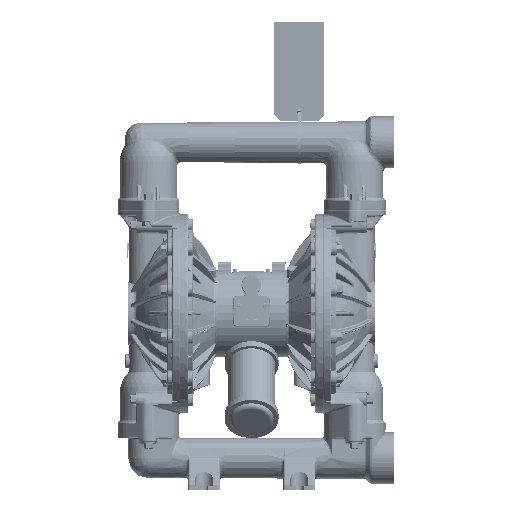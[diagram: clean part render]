
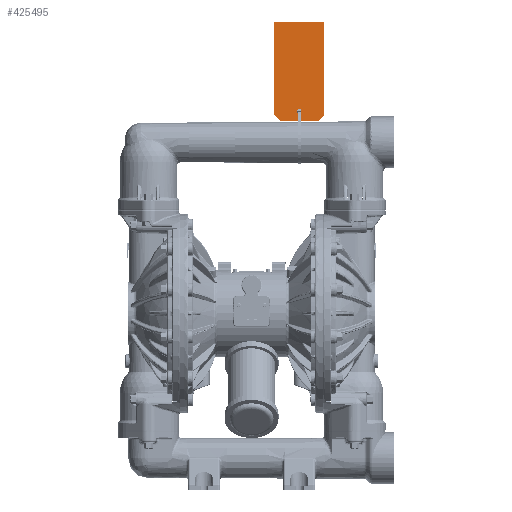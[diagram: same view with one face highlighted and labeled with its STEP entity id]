
A CAD part, top view. The second image highlights one B-rep face of the part: STEP entity #425495.
In plain terms, the highlighted planar face has unit normal (0, 0, 1).
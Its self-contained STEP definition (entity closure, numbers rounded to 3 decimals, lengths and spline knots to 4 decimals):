
#425408=DIRECTION('',(1.,0.,0.));
#425409=VECTOR('',#425408,3.12);
#425410=CARTESIAN_POINT('',(1.44,18.37,-0.155));
#425411=LINE('',#425410,#425409);
#425412=DIRECTION('',(0.,-1.,0.));
#425413=VECTOR('',#425412,5.875);
#425414=CARTESIAN_POINT('',(4.56,18.37,-0.155));
#425415=LINE('',#425414,#425413);
#425416=DIRECTION('',(-0.707,-0.707,0.));
#425417=VECTOR('',#425416,0.5303);
#425418=CARTESIAN_POINT('',(4.56,12.495,-0.155));
#425419=LINE('',#425418,#425417);
#425420=DIRECTION('',(-1.,0.,0.));
#425421=VECTOR('',#425420,2.37);
#425422=CARTESIAN_POINT('',(4.185,12.12,-0.155));
#425423=LINE('',#425422,#425421);
#425424=DIRECTION('',(-0.707,0.707,0.));
#425425=VECTOR('',#425424,0.5303);
#425426=CARTESIAN_POINT('',(1.815,12.12,-0.155));
#425427=LINE('',#425426,#425425);
#425428=DIRECTION('',(0.,1.,0.));
#425429=VECTOR('',#425428,5.875);
#425430=CARTESIAN_POINT('',(1.44,12.495,-0.155));
#425431=LINE('',#425430,#425429);
#425444=CARTESIAN_POINT('',(4.56,18.37,-0.155));
#425445=CARTESIAN_POINT('',(1.44,18.37,-0.155));
#425446=VERTEX_POINT('',#425444);
#425447=VERTEX_POINT('',#425445);
#425448=CARTESIAN_POINT('',(1.44,12.495,-0.155));
#425449=VERTEX_POINT('',#425448);
#425450=CARTESIAN_POINT('',(1.815,12.12,-0.155));
#425451=CARTESIAN_POINT('',(4.185,12.12,-0.155));
#425452=VERTEX_POINT('',#425450);
#425453=VERTEX_POINT('',#425451);
#425454=CARTESIAN_POINT('',(4.56,12.495,-0.155));
#425455=VERTEX_POINT('',#425454);
#425476=CARTESIAN_POINT('',(3.,12.56,-0.155));
#425477=DIRECTION('',(0.,0.,1.));
#425478=DIRECTION('',(0.,-1.,0.));
#425479=AXIS2_PLACEMENT_3D('',#425476,#425477,#425478);
#425480=PLANE('',#425479);
#425482=ORIENTED_EDGE('',*,*,#425481,.T.);
#425484=ORIENTED_EDGE('',*,*,#425483,.T.);
#425486=ORIENTED_EDGE('',*,*,#425485,.T.);
#425488=ORIENTED_EDGE('',*,*,#425487,.T.);
#425490=ORIENTED_EDGE('',*,*,#425489,.T.);
#425492=ORIENTED_EDGE('',*,*,#425491,.T.);
#425493=EDGE_LOOP('',(#425482,#425484,#425486,#425488,#425490,#425492));
#425494=FACE_OUTER_BOUND('',#425493,.F.);
#425495=ADVANCED_FACE('',(#425494),#425480,.T.);
#425481=EDGE_CURVE('',#425447,#425446,#425411,.T.);
#425483=EDGE_CURVE('',#425446,#425455,#425415,.T.);
#425485=EDGE_CURVE('',#425455,#425453,#425419,.T.);
#425487=EDGE_CURVE('',#425453,#425452,#425423,.T.);
#425489=EDGE_CURVE('',#425452,#425449,#425427,.T.);
#425491=EDGE_CURVE('',#425449,#425447,#425431,.T.);
